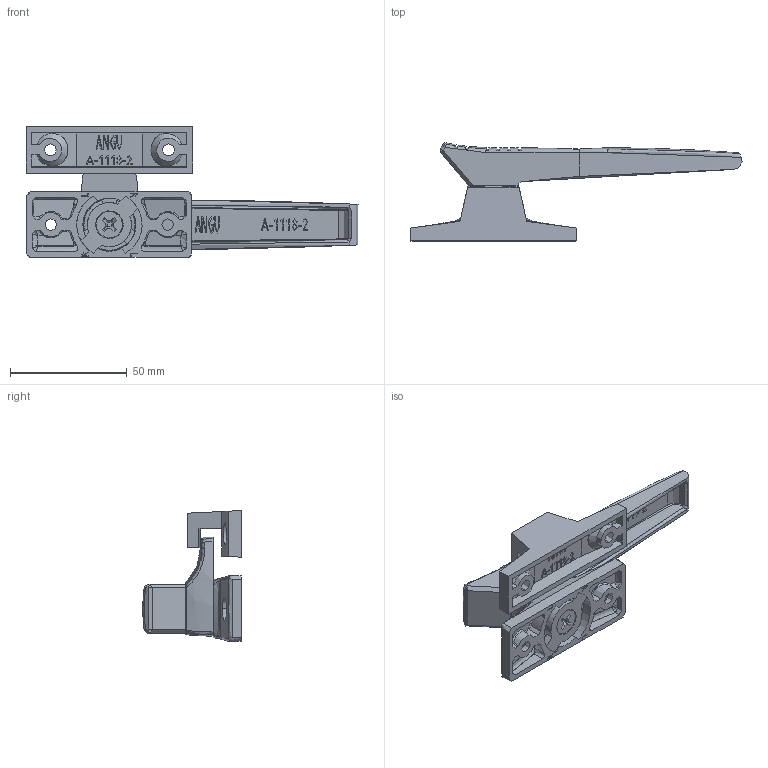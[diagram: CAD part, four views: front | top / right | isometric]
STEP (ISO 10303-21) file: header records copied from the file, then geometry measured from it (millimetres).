
FILE_DESCRIPTION(/* description */ (''),/* implementation_level */ '2;1');
FILE_NAME(/* name */ 'A-1118-2 不鏽鋼迫緊把手',/* time_stamp */ '2023-05-09T10:32:23+08:00',/* author */ (''),/* organization */ (''),/* preprocessor_version */ 'ST-DEVELOPER v16.5',/* originating_system */ 'Rhino 7.28',/* authorisation */ '');
FILE_SCHEMA (('CONFIG_CONTROL_DESIGN'));
Length unit declared in the file: millimetre
Products named in the file (3): Document; 圖塊 02; 圖塊 01
Assembly tree (2 placements, depth 2):
  Document
    圖塊 02
    圖塊 01
Bounding box: 141.98 x 41.96 x 55.95 mm (x, y, z)
Volume: 10258.5 mm3; surface area: 28742.1 mm2
Topology: 4 solids, 9 shells, 868 faces, 2333 edges, 1513 vertices
Faces by surface type: plane 391, bspline 298, cylinder 179
Entity records: 53818 total; most frequent: CARTESIAN_POINT 38633, ORIENTED_EDGE 4602, EDGE_CURVE 2322, B_SPLINE_CURVE_WITH_KNOTS 1837, VERTEX_POINT 1513, EDGE_LOOP 937, ADVANCED_FACE 868, FACE_OUTER_BOUND 868
